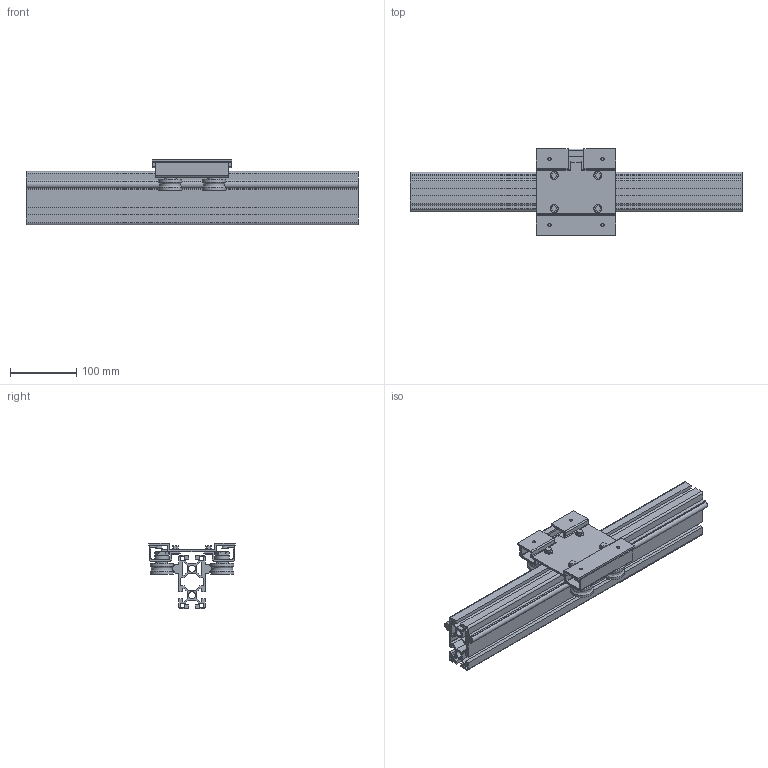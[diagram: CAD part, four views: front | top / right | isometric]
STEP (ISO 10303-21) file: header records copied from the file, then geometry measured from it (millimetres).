
FILE_DESCRIPTION((''),'2;1');
FILE_NAME('C:\Documents and Settings\土屋\My Documents\土屋移動用フォルダ\製品 (図面)\LSダウンロード用図面\新型キャリッジ\縦型LS\step形式\LS4080A.stp','2017-08-02T09:33:15',('y'),(''),'Autodesk Inventor 11','Autodesk Inventor 11','');
FILE_SCHEMA(('AUTOMOTIVE_DESIGN { 1 0 10303 214 1 1 1 1 }'));
Length unit declared in the file: millimetre
Products named in the file (3): LS4080A; LS4080Aレール; LS4080Aキャリッジ
Assembly tree (2 placements, depth 2):
  LS4080A
    LS4080Aレール
    LS4080Aキャリッジ
Bounding box: 500 x 130 x 98 mm (x, y, z)
Volume: 942114.9 mm3; surface area: 480576 mm2
Topology: 6 solids, 6 shells, 407 faces, 1044 edges, 674 vertices
Faces by surface type: plane 241, cylinder 94, cone 60, bspline 12
Full cylindrical faces by diameter (mm): 8.8 x4, 10.5 x2, 11 x4, 12 x8, 18 x4, 21 x4, 35 x8
Entity records: 12324 total; most frequent: CARTESIAN_POINT 2696, ORIENTED_EDGE 1948, DIRECTION 1946, EDGE_CURVE 974, AXIS2_PLACEMENT_3D 668, VERTEX_POINT 662, VECTOR 610, LINE 610
